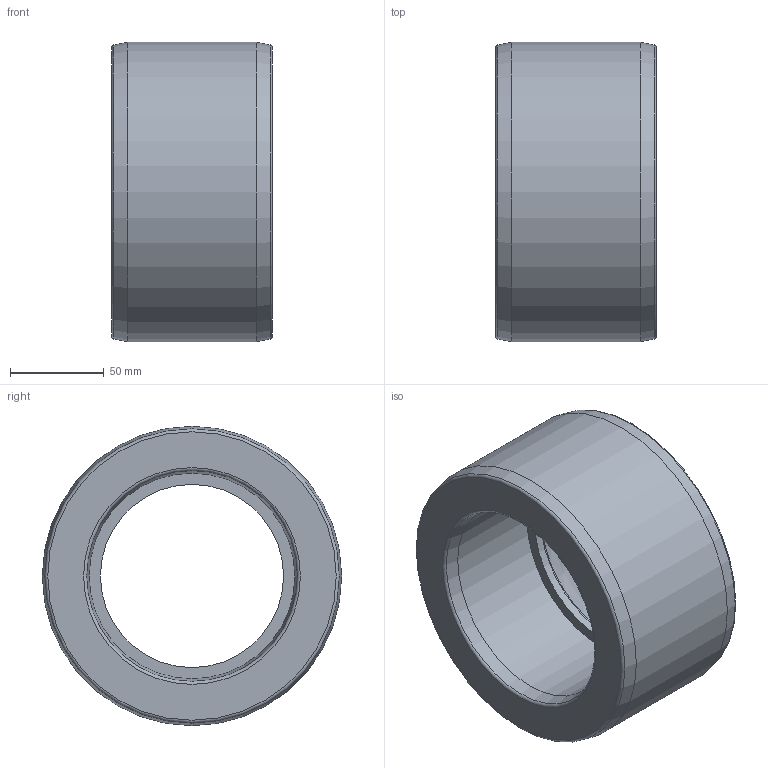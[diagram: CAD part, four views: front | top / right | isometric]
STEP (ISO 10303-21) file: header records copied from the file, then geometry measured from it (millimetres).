
FILE_DESCRIPTION(/* description */ ('PLASSON BUSHING-CEMENT PVC 160-110'),/* implementation_level */ '2;1');
FILE_NAME(/* name */ 'C:\Dropbox\KIMPROJECTS-Inventor\99-16-3568-Processing\PVC Catalog 2017\050900\050900160110.ipt.stp',/* time_stamp */ '2017-12-07T15:59:42+02:00',/* author */ ('KIM'),/* organization */ (''),/* preprocessor_version */ 'ST-DEVELOPER v15.6',/* originating_system */ 'Autodesk Inventor 2015',/* authorisation */ '');
FILE_SCHEMA (('AUTOMOTIVE_DESIGN { 1 0 10303 214 3 1 1 }'));
Length unit declared in the file: millimetre
Products named in the file (1): 050900160110
Bounding box: 86 x 160 x 160 mm (x, y, z)
Volume: 910013.9 mm3; surface area: 92201.9 mm2
Topology: 1 solids, 1 shells, 15 faces, 27 edges, 15 vertices
Faces by surface type: torus 5, cone 4, cylinder 3, plane 3
Full cylindrical faces by diameter (mm): 97.9 x1, 110 x1, 160 x1
Entity records: 332 total; most frequent: DIRECTION 62, CARTESIAN_POINT 46, AXIS2_PLACEMENT_3D 31, EDGE_LOOP 30, ORIENTED_EDGE 30, FACE_BOUND 15, FACE_OUTER_BOUND 15, CIRCLE 15
